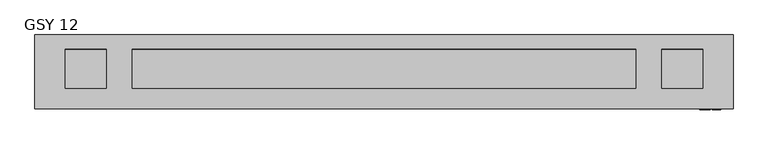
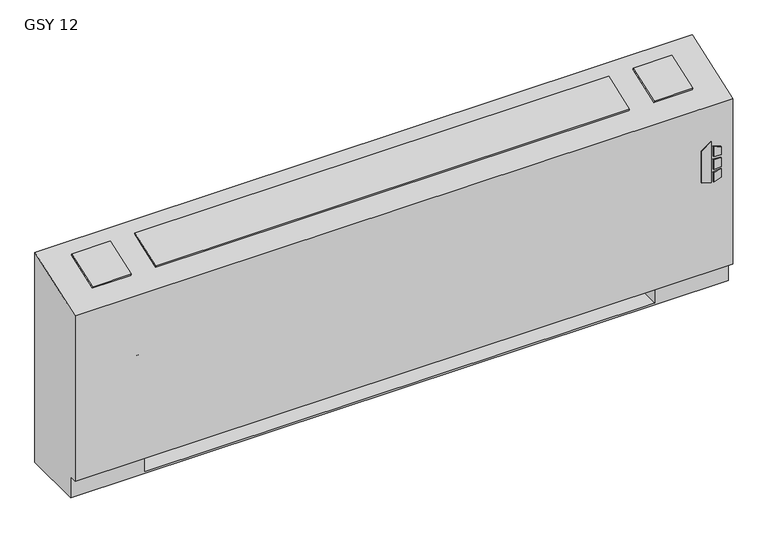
"""IFC4 building model written with IfcOpenShell, lengths in millimetres: proxy geometry, Vertical_Fan_Coil_Unit_-_GSY_-_IEC_-_2-Pipe_TS-FR_LH_2022 : GSY 12."""

from ifc_helpers import new_model, si_unit, point, frame, frame_2d, origin, place, context, project, spatial, polyline, circle_curve, trimmed, segment, composite_curve, outline, extrude, source, transform, mapped, element, save
from ifc_brep_helpers import plane_surface, revolved_surface, advanced_brep


def gsy_12_c2b4ca95(model_context):
    return source(origin(), model_context, "Body", "SolidModel", [
        extrude(outline(polyline([(391.6086829, 1128.7868862), (381.6606126, 1160.9602728), (523.831537, 1160.9602728), (500.8095309, 1128.7868862), (391.6086829, 1128.7868862)])), frame((0.0, 12.7, 0.0), z_axis=(0.0, 1.0, 0.0), x_axis=(0.0, 0.0, 1.0)), (0.0, 0.0, 1.0), 3.175),
        extrude(outline(polyline([(470.6079683, 1167.7186058), (467.4055757, 1193.8), (496.6344168, 1193.8), (504.6988318, 1167.7186058), (470.6079683, 1167.7186058)])), frame((0.0, 12.7, 0.0), z_axis=(0.0, 1.0, 0.0), x_axis=(0.0, 0.0, 1.0)), (0.0, 0.0, 1.0), 3.175),
        extrude(outline(polyline([(418.7444414, 1193.8), (415.0789404, 1167.7186058), (381.6606126, 1167.7186058), (390.2948498, 1193.8), (418.7444414, 1193.8)])), frame((0.0, 12.7, 0.0), z_axis=(0.0, 1.0, 0.0), x_axis=(0.0, 0.0, 1.0)), (0.0, 0.0, 1.0), 3.175),
        extrude(outline(polyline([(458.0596028, 1193.8), (460.3414292, 1167.7186058), (424.4038806, 1167.7186058), (427.1451456, 1193.8), (458.0596028, 1193.8)])), frame((0.0, 12.7, 0.0), z_axis=(0.0, 1.0, 0.0), x_axis=(0.0, 0.0, 1.0)), (0.0, 0.0, 1.0), 3.175),
        extrude(outline(polyline([(0.0, -126.2347031), (0.0, 0.0), (127.0, 0.0), (127.0, -126.2347031), (0.0, -126.2347031)])), frame((-832.993, 200.4217127, 714.3418685), z_axis=(0.0, -0.33964446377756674, 0.9405538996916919), x_axis=(1.0, 0.0, 0.0)), (0.0, 0.0, 1.0), 6.35),
        extrude(outline(polyline([(0.0, -126.2347031), (0.0, 0.0), (1555.75, 0.0), (1555.75, -126.2347031), (0.0, -126.2347031)])), frame((930.275, 81.6911704, 671.4669504), z_axis=(0.0, -0.3396444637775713, 0.9405538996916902), x_axis=(-1.0, 0.0, 0.0)), (0.0, 0.0, 1.0), 6.35),
        extrude(outline(polyline([(0.0, -126.2347031), (0.0, 0.0), (127.0, 0.0), (127.0, -126.2347031), (0.0, -126.2347031)])), frame((1137.793, 81.6911704, 671.4669504), z_axis=(0.0, -0.3396444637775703, 0.9405538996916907), x_axis=(-1.0, 0.0, 0.0)), (0.0, 0.0, 1.0), 6.35),
        extrude(outline(polyline([(990.6, 81.534), (990.6, 223.266), (1111.25, 223.266), (1111.25, 81.534), (990.6, 81.534)])), frame((0.0, 0.0, 327.025), z_axis=(0.0, 0.0, 1.0), x_axis=(1.0, 0.0, 0.0)), (0.0, 0.0, 1.0), 260.35),
        extrude(outline(composite_curve([segment(trimmed(circle_curve(frame_2d((80.645, 397.002)), 7.9375), [point((80.645, 404.9395))], [point((80.645, 389.0645))], False, "CARTESIAN"), True, "CONTINUOUS"), segment(trimmed(circle_curve(frame_2d((80.645, 397.002)), 7.9375), [point((80.645, 389.0645))], [point((80.645, 404.9395))], False, "CARTESIAN"), True, "CONTINUOUS")], self_intersect=False)), frame((-736.6, 0.0, 0.0), z_axis=(1.0, 0.0, 0.0), x_axis=(0.0, 1.0, 0.0)), (0.0, 0.0, 1.0), 50.8),
        extrude(outline(composite_curve([segment(trimmed(circle_curve(frame_2d((156.8958, 535.8892)), 7.9375), [point((156.8958, 543.8267))], [point((156.8958, 527.9517))], False, "CARTESIAN"), True, "CONTINUOUS"), segment(trimmed(circle_curve(frame_2d((156.8958, 535.8892)), 7.9375), [point((156.8958, 527.9517))], [point((156.8958, 543.8267))], False, "CARTESIAN"), True, "CONTINUOUS")], self_intersect=False)), frame((-736.6, 0.0, 0.0), z_axis=(1.0, 0.0, 0.0), x_axis=(0.0, 1.0, 0.0)), (0.0, 0.0, 1.0), 50.8),
        advanced_brep(
        [(-927.1, 244.475, 0.0), (1231.9, 244.475, 0.0), (1231.9, 41.275, 0.0), (-927.1, 41.275, 0.0), (-927.1, 244.475, 730.25), (1231.9, 244.475, 730.25), (990.6, 244.475, 73.025), (1219.2, 244.475, 73.025), (1219.2, 244.475, 654.05), (990.6, 244.475, 654.05), (990.6, 244.475, 414.8650565), (1019.175, 244.475, 414.8650565), (1019.175, 244.475, 385.2349435), (990.6, 244.475, 385.2349435), (990.6, 244.475, 287.3375), (1019.175, 244.475, 287.3375), (1019.175, 244.475, 258.7625), (990.6, 244.475, 258.7625), (990.6, 244.475, 141.2875), (1019.175, 244.475, 141.2875), (1019.175, 244.475, 112.7125), (990.6, 244.475, 112.7125), (-685.8, 244.475, 654.05), (-914.4, 244.475, 654.05), (-914.4, 244.475, 73.025), (-685.8, 244.475, 73.025), (-685.8, 244.475, 112.7125), (-714.375, 244.475, 112.7125), (-714.375, 244.475, 141.2875), (-685.8, 244.475, 141.2875), (-685.8, 244.475, 258.7625), (-714.375, 244.475, 258.7625), (-714.375, 244.475, 287.3375), (-685.8, 244.475, 287.3375), (-685.8, 244.475, 385.2349435), (-714.375, 244.475, 385.2349435), (-714.375, 244.475, 414.8650565), (-685.8, 244.475, 414.8650565), (1008.8626, 244.475, 127.0), (997.7374, 244.475, 127.0), (1008.8626, 244.475, 400.05), (997.7374, 244.475, 400.05), (1008.8626, 244.475, 273.05), (997.7374, 244.475, 273.05), (-692.9374, 244.475, 127.0), (-704.0626, 244.475, 127.0), (-692.9374, 244.475, 273.05), (-704.0626, 244.475, 273.05), (-692.9374, 244.475, 400.05), (-704.0626, 244.475, 400.05), (-927.1, 41.275, 73.025), (-927.1, 15.875, 73.025), (-927.1, 15.875, 647.7), (1231.9, 15.875, 73.025), (1231.9, 15.875, 647.7), (1231.9, 41.275, 73.025), (-685.8, 41.275, 73.025), (-685.8, 225.425, 73.025), (990.6, 225.425, 73.025), (990.6, 41.275, 73.025), (990.6, 41.275, 6.35), (-685.8, 41.275, 6.35), (990.6, 41.275, 654.05), (1219.2, 41.275, 654.05), (1219.2, 41.275, 73.025), (990.6, 41.275, 73.025), (-685.8, 41.275, 654.05), (-685.8, 41.275, 73.025), (-914.4, 41.275, 73.025), (-914.4, 41.275, 654.05), (990.6, 225.425, 73.025), (990.6, 238.125, 112.7125), (990.6, 238.125, 141.2875), (990.6, 238.125, 258.7625), (990.6, 238.125, 287.3375), (990.6, 238.125, 385.2349435), (990.6, 238.125, 414.8650565), (-685.8, 225.425, 73.025), (-685.8, 238.125, 414.8650565), (-685.8, 238.125, 385.2349435), (-685.8, 238.125, 287.3375), (-685.8, 238.125, 258.7625), (-685.8, 238.125, 141.2875), (-685.8, 238.125, 112.7125), (-685.8, 225.425, 6.35), (990.6, 225.425, 6.35), (1019.175, 238.125, 112.7125), (1019.175, 238.125, 141.2875), (997.7374, 238.125, 127.0), (1008.8626, 238.125, 127.0), (1019.175, 238.125, 258.7625), (1019.175, 238.125, 287.3375), (997.7374, 238.125, 273.05), (1008.8626, 238.125, 273.05), (1019.175, 238.125, 385.2349435), (1019.175, 238.125, 414.8650565), (997.7374, 238.125, 400.05), (1008.8626, 238.125, 400.05), (-714.375, 238.125, 141.2875), (-714.375, 238.125, 112.7125), (-704.0626, 238.125, 127.0), (-692.9374, 238.125, 127.0), (-714.375, 238.125, 287.3375), (-714.375, 238.125, 258.7625), (-704.0626, 238.125, 273.05), (-692.9374, 238.125, 273.05), (-714.375, 238.125, 414.8650565), (-714.375, 238.125, 385.2349435), (-704.0626, 238.125, 400.05), (-692.9374, 238.125, 400.05)],
        [
            (0, 1),
            (1, 2),
            (2, 3),
            (3, 0),
            (0, 4),
            (4, 5),
            (5, 1),
            (6, 7),
            (7, 8),
            (8, 9),
            (9, 10),
            (10, 11),
            (11, 12),
            (12, 13),
            (13, 14),
            (14, 15),
            (15, 16),
            (16, 17),
            (17, 18),
            (18, 19),
            (19, 20),
            (20, 21),
            (21, 6),
            (22, 23),
            (23, 24),
            (24, 25),
            (25, 26),
            (26, 27),
            (27, 28),
            (28, 29),
            (29, 30),
            (30, 31),
            (31, 32),
            (32, 33),
            (33, 34),
            (34, 35),
            (35, 36),
            (36, 37),
            (37, 22),
            (38, 39, circle_curve(frame((1003.3, 244.475, 127.0), z_axis=(0.0, -1.0, 0.0), x_axis=(-1.0, 0.0, 0.0)), 5.5626)),
            (39, 38, circle_curve(frame((1003.3, 244.475, 127.0), z_axis=(0.0, -1.0, 0.0), x_axis=(-1.0, 0.0, 0.0)), 5.5626)),
            (40, 41, circle_curve(frame((1003.3, 244.475, 400.05), z_axis=(0.0, -1.0, 0.0), x_axis=(-1.0, 0.0, 0.0)), 5.5626)),
            (41, 40, circle_curve(frame((1003.3, 244.475, 400.05), z_axis=(0.0, -1.0, 0.0), x_axis=(-1.0, 0.0, 0.0)), 5.5626)),
            (42, 43, circle_curve(frame((1003.3, 244.475, 273.05), z_axis=(0.0, -1.0, 0.0), x_axis=(-1.0, 0.0, 0.0)), 5.5626)),
            (43, 42, circle_curve(frame((1003.3, 244.475, 273.05), z_axis=(0.0, -1.0, 0.0), x_axis=(-1.0, 0.0, 0.0)), 5.5626)),
            (44, 45, circle_curve(frame((-698.5, 244.475, 127.0), z_axis=(0.0, -1.0, 0.0), x_axis=(-1.0, 0.0, 0.0)), 5.5626)),
            (45, 44, circle_curve(frame((-698.5, 244.475, 127.0), z_axis=(0.0, -1.0, 0.0), x_axis=(-1.0, 0.0, 0.0)), 5.5626)),
            (46, 47, circle_curve(frame((-698.5, 244.475, 273.05), z_axis=(0.0, -1.0, 0.0), x_axis=(-1.0, 0.0, 0.0)), 5.5626)),
            (47, 46, circle_curve(frame((-698.5, 244.475, 273.05), z_axis=(0.0, -1.0, 0.0), x_axis=(-1.0, 0.0, 0.0)), 5.5626)),
            (48, 49, circle_curve(frame((-698.5, 244.475, 400.05), z_axis=(0.0, -1.0, 0.0), x_axis=(-1.0, 0.0, 0.0)), 5.5626)),
            (49, 48, circle_curve(frame((-698.5, 244.475, 400.05), z_axis=(0.0, -1.0, 0.0), x_axis=(-1.0, 0.0, 0.0)), 5.5626)),
            (3, 50),
            (50, 51),
            (51, 52),
            (52, 4),
            (51, 53),
            (53, 54),
            (54, 52),
            (5, 54),
            (53, 55),
            (55, 2),
            (50, 56),
            (56, 57),
            (57, 58),
            (58, 59),
            (59, 55),
            (59, 60),
            (60, 61),
            (61, 56),
            (62, 63),
            (63, 64),
            (64, 65),
            (65, 62),
            (66, 67),
            (67, 68),
            (68, 69),
            (69, 66),
            (65, 70),
            (70, 6),
            (21, 71),
            (71, 72),
            (72, 18),
            (17, 73),
            (73, 74),
            (74, 14),
            (13, 75),
            (75, 76),
            (76, 10),
            (9, 62),
            (64, 7),
            (63, 8),
            (69, 23),
            (22, 66),
            (68, 24),
            (67, 77),
            (77, 25),
            (37, 78),
            (78, 79),
            (79, 34),
            (33, 80),
            (80, 81),
            (81, 30),
            (29, 82),
            (82, 83),
            (83, 26),
            (57, 84),
            (84, 85),
            (85, 58),
            (85, 60),
            (84, 61),
            (71, 86),
            (86, 87),
            (87, 72),
            (88, 89, circle_curve(frame((1003.3, 238.125, 127.0), z_axis=(0.0, 1.0, 0.0), x_axis=(-1.0, 0.0, 0.0)), 5.5626)),
            (89, 88, circle_curve(frame((1003.3, 238.125, 127.0), z_axis=(0.0, 1.0, 0.0), x_axis=(-1.0, 0.0, 0.0)), 5.5626)),
            (73, 90),
            (90, 91),
            (91, 74),
            (92, 93, circle_curve(frame((1003.3, 238.125, 273.05), z_axis=(0.0, 1.0, 0.0), x_axis=(-1.0, 0.0, 0.0)), 5.5626)),
            (93, 92, circle_curve(frame((1003.3, 238.125, 273.05), z_axis=(0.0, 1.0, 0.0), x_axis=(-1.0, 0.0, 0.0)), 5.5626)),
            (75, 94),
            (94, 95),
            (95, 76),
            (96, 97, circle_curve(frame((1003.3, 238.125, 400.05), z_axis=(0.0, 1.0, 0.0), x_axis=(-1.0, 0.0, 0.0)), 5.5626)),
            (97, 96, circle_curve(frame((1003.3, 238.125, 400.05), z_axis=(0.0, 1.0, 0.0), x_axis=(-1.0, 0.0, 0.0)), 5.5626)),
            (98, 99),
            (99, 83),
            (82, 98),
            (100, 101, circle_curve(frame((-698.5, 238.125, 127.0), z_axis=(0.0, 1.0, 0.0), x_axis=(-1.0, 0.0, 0.0)), 5.5626)),
            (101, 100, circle_curve(frame((-698.5, 238.125, 127.0), z_axis=(0.0, 1.0, 0.0), x_axis=(-1.0, 0.0, 0.0)), 5.5626)),
            (102, 103),
            (103, 81),
            (80, 102),
            (104, 105, circle_curve(frame((-698.5, 238.125, 273.05), z_axis=(0.0, 1.0, 0.0), x_axis=(-1.0, 0.0, 0.0)), 5.5626)),
            (105, 104, circle_curve(frame((-698.5, 238.125, 273.05), z_axis=(0.0, 1.0, 0.0), x_axis=(-1.0, 0.0, 0.0)), 5.5626)),
            (106, 107),
            (107, 79),
            (78, 106),
            (108, 109, circle_curve(frame((-698.5, 238.125, 400.05), z_axis=(0.0, 1.0, 0.0), x_axis=(-1.0, 0.0, 0.0)), 5.5626)),
            (109, 108, circle_curve(frame((-698.5, 238.125, 400.05), z_axis=(0.0, 1.0, 0.0), x_axis=(-1.0, 0.0, 0.0)), 5.5626)),
            (87, 19),
            (86, 20),
            (91, 15),
            (90, 16),
            (95, 11),
            (94, 12),
            (28, 98),
            (99, 27),
            (32, 102),
            (103, 31),
            (36, 106),
            (107, 35),
            (88, 39),
            (38, 89),
            (96, 41),
            (40, 97),
            (92, 43),
            (42, 93),
            (100, 45),
            (44, 101),
            (104, 47),
            (46, 105),
            (108, 49),
            (48, 109),
        ],
        [
            plane_surface(frame((-927.1, 244.475, 0.0), z_axis=(0.0, 0.0, -1.0), x_axis=(1.0, 0.0, 0.0))),
            plane_surface(frame((1231.9, 244.475, 730.25), z_axis=(0.0, 1.0, 0.0), x_axis=(0.0, 0.0, -1.0))),
            plane_surface(frame((-927.1, 244.475, 730.25), z_axis=(-1.0, 0.0, 0.0), x_axis=(0.0, 0.0, -1.0))),
            plane_surface(frame((-927.1, 15.875, 730.25), z_axis=(0.0, -1.0, 0.0), x_axis=(0.0, 0.0, -1.0))),
            plane_surface(frame((1231.9, 15.875, 730.25), z_axis=(1.0, 0.0, 0.0), x_axis=(0.0, 0.0, -1.0))),
            plane_surface(frame((-927.1, 15.875, 73.025), z_axis=(0.0, 0.0, -1.0), x_axis=(1.0, 0.0, 0.0))),
            plane_surface(frame((-927.1, 41.275, 73.025), z_axis=(0.0, -1.0, 0.0), x_axis=(1.0, 0.0, 0.0))),
            plane_surface(frame((990.6, 41.275, 654.05), z_axis=(0.0, 1.0, 0.0), x_axis=(0.0, 0.0, -1.0))),
            plane_surface(frame((990.6, 41.275, 654.05), z_axis=(1.0, 0.0, 0.0), x_axis=(0.0, 1.0, 0.0))),
            plane_surface(frame((990.6, 41.275, 73.025), z_axis=(0.0, 0.0, 1.0), x_axis=(0.0, 1.0, 0.0))),
            plane_surface(frame((1219.2, 41.275, 73.025), z_axis=(-1.0, 0.0, 0.0), x_axis=(0.0, 1.0, 0.0))),
            plane_surface(frame((1219.2, 41.275, 654.05), z_axis=(0.0, 0.0, -1.0), x_axis=(0.0, 1.0, 0.0))),
            plane_surface(frame((-685.8, 41.275, 654.05), z_axis=(0.0, 0.0, -1.0), x_axis=(0.0, 1.0, 0.0))),
            plane_surface(frame((-914.4, 41.275, 654.05), z_axis=(1.0, 0.0, 0.0), x_axis=(0.0, 1.0, 0.0))),
            plane_surface(frame((-914.4, 41.275, 73.025), z_axis=(0.0, 0.0, 1.0), x_axis=(0.0, 1.0, 0.0))),
            plane_surface(frame((-685.8, 41.275, 73.025), z_axis=(-1.0, 0.0, 0.0), x_axis=(0.0, 1.0, 0.0))),
            plane_surface(frame((990.6, 225.425, 73.025), z_axis=(0.0, -1.0, 0.0), x_axis=(0.0, 0.0, -1.0))),
            plane_surface(frame((990.6, 225.425, 73.025), z_axis=(-1.0, 0.0, 0.0), x_axis=(0.0, -1.0, 0.0))),
            plane_surface(frame((990.6, 225.425, 6.35), z_axis=(0.0, 0.0, 1.0), x_axis=(0.0, -1.0, 0.0))),
            plane_surface(frame((-685.8, 225.425, 6.35), z_axis=(1.0, 0.0, 0.0), x_axis=(0.0, -1.0, 0.0))),
            plane_surface(frame((1019.175, 238.125, 141.2875), z_axis=(0.0, -1.0, 0.0), x_axis=(-1.0, 0.0, 0.0))),
            plane_surface(frame((990.6, 244.475, 141.2875), z_axis=(0.0, 0.0, 1.0), x_axis=(0.0, -1.0, 0.0))),
            plane_surface(frame((1019.175, 244.475, 141.2875), z_axis=(1.0, 0.0, 0.0), x_axis=(0.0, -1.0, 0.0))),
            plane_surface(frame((1019.175, 244.475, 112.7125), z_axis=(0.0, 0.0, -1.0), x_axis=(0.0, -1.0, 0.0))),
            plane_surface(frame((990.6, 244.475, 287.3375), z_axis=(0.0, 0.0, 1.0), x_axis=(0.0, -1.0, 0.0))),
            plane_surface(frame((1019.175, 244.475, 287.3375), z_axis=(1.0, 0.0, 0.0), x_axis=(0.0, -1.0, 0.0))),
            plane_surface(frame((1019.175, 244.475, 258.7625), z_axis=(0.0, 0.0, -1.0), x_axis=(0.0, -1.0, 0.0))),
            plane_surface(frame((990.6, 244.475, 414.8650565), z_axis=(0.0, 0.0, 1.0), x_axis=(0.0, -1.0, 0.0))),
            plane_surface(frame((1019.175, 244.475, 414.8650565), z_axis=(1.0, 0.0, 0.0), x_axis=(0.0, -1.0, 0.0))),
            plane_surface(frame((1019.175, 244.475, 385.2349435), z_axis=(0.0, 0.0, -1.0), x_axis=(0.0, -1.0, 0.0))),
            plane_surface(frame((-714.375, 244.475, 141.2875), z_axis=(0.0, 0.0, 1.0), x_axis=(0.0, -1.0, 0.0))),
            plane_surface(frame((-685.8, 244.475, 112.7125), z_axis=(0.0, 0.0, -1.0), x_axis=(0.0, -1.0, 0.0))),
            plane_surface(frame((-714.375, 244.475, 112.7125), z_axis=(-1.0, 0.0, 0.0), x_axis=(0.0, -1.0, 0.0))),
            plane_surface(frame((-714.375, 244.475, 287.3375), z_axis=(0.0, 0.0, 1.0), x_axis=(0.0, -1.0, 0.0))),
            plane_surface(frame((-685.8, 244.475, 258.7625), z_axis=(0.0, 0.0, -1.0), x_axis=(0.0, -1.0, 0.0))),
            plane_surface(frame((-714.375, 244.475, 258.7625), z_axis=(-1.0, 0.0, 0.0), x_axis=(0.0, -1.0, 0.0))),
            plane_surface(frame((-714.375, 244.475, 414.8650565), z_axis=(0.0, 0.0, 1.0), x_axis=(0.0, -1.0, 0.0))),
            plane_surface(frame((-685.8, 244.475, 385.2349435), z_axis=(0.0, 0.0, -1.0), x_axis=(0.0, -1.0, 0.0))),
            plane_surface(frame((-714.375, 244.475, 385.2349435), z_axis=(-1.0, 0.0, 0.0), x_axis=(0.0, -1.0, 0.0))),
            revolved_surface(polyline([(997.7374, 238.125, 127.0), (997.7374, 244.475, 127.0)]), (1003.3, 244.475, 127.0), (0.0, -1.0, 0.0)),
            revolved_surface(polyline([(997.7374, 238.125, 400.05), (997.7374, 244.475, 400.05)]), (1003.3, 244.475, 400.05), (0.0, -1.0, 0.0)),
            revolved_surface(polyline([(997.7374, 238.125, 273.05), (997.7374, 244.475, 273.05)]), (1003.3, 244.475, 273.05), (0.0, -1.0, 0.0)),
            revolved_surface(polyline([(-704.0626, 238.125, 127.0), (-704.0626, 244.475, 127.0)]), (-698.5, 244.475, 127.0), (0.0, -1.0, 0.0)),
            revolved_surface(polyline([(-704.0626, 238.125, 273.05), (-704.0626, 244.475, 273.05)]), (-698.5, 244.475, 273.05), (0.0, -1.0, 0.0)),
            revolved_surface(polyline([(-704.0626, 238.125, 400.05), (-704.0626, 244.475, 400.05)]), (-698.5, 244.475, 400.05), (0.0, -1.0, 0.0)),
            plane_surface(frame((-927.1, 244.475, 730.25), z_axis=(0.0, -0.33964446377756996, 0.9405538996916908), x_axis=(1.0, 0.0, 0.0))),
        ],
        [
            (0, [[1, 2, 3, 4]]),
            (1, [[-1, 5, 6, 7], [8, 9, 10, 11, 12, 13, 14, 15, 16, 17, 18, 19, 20, 21, 22, 23], [24, 25, 26, 27, 28, 29, 30, 31, 32, 33, 34, 35, 36, 37, 38, 39], [40, 41], [42, 43], [44, 45], [46, 47], [48, 49], [50, 51]]),
            (2, [[-5, -4, 52, 53, 54, 55]]),
            (3, [[56, 57, 58, -54]]),
            (4, [[-7, 59, -57, 60, 61, -2]]),
            (5, [[-53, 62, 63, 64, 65, 66, -60, -56]]),
            (6, [[-3, -61, -66, 67, 68, 69, -62, -52]]),
            (7, [[70, 71, 72, 73]]),
            (7, [[74, 75, 76, 77]]),
            (8, [[-73, 78, 79, -23, 80, 81, 82, -19, 83, 84, 85, -15, 86, 87, 88, -11, 89]]),
            (9, [[-72, 90, -8, -79, -78]]),
            (10, [[-71, 91, -9, -90]]),
            (11, [[-70, -89, -10, -91]]),
            (12, [[-77, 92, -24, 93]]),
            (13, [[-76, 94, -25, -92]]),
            (14, [[-75, 95, 96, -26, -94]]),
            (15, [[-74, -93, -39, 97, 98, 99, -35, 100, 101, 102, -31, 103, 104, 105, -27, -96, -95]]),
            (16, [[-64, 106, 107, 108]]),
            (17, [[-108, 109, -67, -65]]),
            (18, [[-107, 110, -68, -109]]),
            (19, [[-106, -63, -69, -110]]),
            (20, [[111, 112, 113, -81], [114, 115]]),
            (20, [[116, 117, 118, -84], [119, 120]]),
            (20, [[121, 122, 123, -87], [124, 125]]),
            (20, [[126, 127, -104, 128], [129, 130]]),
            (20, [[131, 132, -101, 133], [134, 135]]),
            (20, [[136, 137, -98, 138], [139, 140]]),
            (21, [[-113, 141, -20, -82]]),
            (22, [[-112, 142, -21, -141]]),
            (23, [[-111, -80, -22, -142]]),
            (24, [[-118, 143, -16, -85]]),
            (25, [[-117, 144, -17, -143]]),
            (26, [[-116, -83, -18, -144]]),
            (27, [[-123, 145, -12, -88]]),
            (28, [[-122, 146, -13, -145]]),
            (29, [[-121, -86, -14, -146]]),
            (30, [[-128, -103, -30, 147]]),
            (31, [[-127, 148, -28, -105]]),
            (32, [[-126, -147, -29, -148]]),
            (33, [[-133, -100, -34, 149]]),
            (34, [[-132, 150, -32, -102]]),
            (35, [[-131, -149, -33, -150]]),
            (36, [[-138, -97, -38, 151]]),
            (37, [[-137, 152, -36, -99]]),
            (38, [[-136, -151, -37, -152]]),
            (39, [[153, -40, 154, -114]]),
            (39, [[-153, -115, -154, -41]]),
            (40, [[155, -42, 156, -124]]),
            (40, [[-155, -125, -156, -43]]),
            (41, [[157, -44, 158, -119]]),
            (41, [[-157, -120, -158, -45]]),
            (42, [[159, -46, 160, -129]]),
            (42, [[-159, -130, -160, -47]]),
            (43, [[161, -48, 162, -134]]),
            (43, [[-161, -135, -162, -49]]),
            (44, [[163, -50, 164, -139]]),
            (44, [[-163, -140, -164, -51]]),
            (45, [[-6, -55, -58, -59]]),
        ],
    ),
    ])


if __name__ == "__main__":
    model = new_model("IFC4")
    model_context = context("Model", 3, world=origin())
    ifc_project = project(units=[si_unit("LENGTHUNIT", "METRE", prefix="MILLI")], contexts=[model_context])
    site = spatial("IfcSite", under=ifc_project)
    building = spatial("IfcBuilding", under=site)
    placement = place(None, origin())
    gsy_12_shape = gsy_12_c2b4ca95(model_context)
    element("IfcBuildingElementProxy", 1, Name="Vertical_Fan_Coil_Unit_-_GSY_-_IEC_-_2-Pipe_TS-FR_LH_2022 : GSY 12", ObjectType="Vertical_Fan_Coil_Unit_-_GSY_-_IEC_-_2-Pipe_TS-FR_LH_2022 : GSY 12", at=placement, inside=building, context=model_context, shape_type="MappedRepresentation", body=[
        mapped(gsy_12_shape, transform((0.0, 0.0, 0.0), x_axis=(1.0, 0.0, 0.0), y_axis=(0.0, 1.0, 0.0), z_axis=(0.0, 0.0, 1.0))),
    ])
    save(model, "model.ifc")
